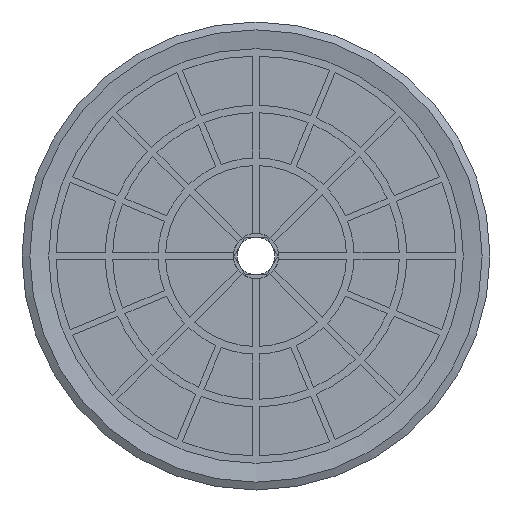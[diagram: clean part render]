
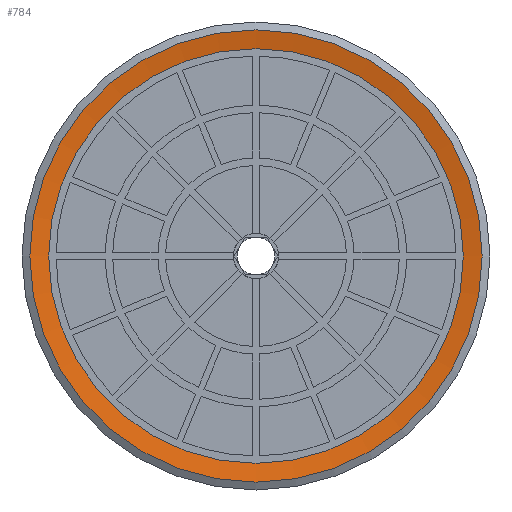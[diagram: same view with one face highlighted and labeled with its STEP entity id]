
A CAD part, front view. The second image highlights one B-rep face of the part: STEP entity #784.
In plain terms, the highlighted conical face has half-angle 80 degrees and reference radius 15 mm.
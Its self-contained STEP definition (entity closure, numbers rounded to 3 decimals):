
#784=ADVANCED_FACE('',(#1532,#1533),#1534,.F.);
#1532=FACE_BOUND('',#2609,.T.);
#1533=FACE_OUTER_BOUND('',#2610,.T.);
#1534=CONICAL_SURFACE('',#2611,15.0,1.396);
#2609=EDGE_LOOP('',(#4850));
#2610=EDGE_LOOP('',(#4851));
#2611=AXIS2_PLACEMENT_3D('',#4852,#4853,#4854);
#4850=ORIENTED_EDGE('',*,*,#6196,.T.);
#4851=ORIENTED_EDGE('',*,*,#6290,.F.);
#4852=CARTESIAN_POINT('',(0.0,0.,0.));
#4853=DIRECTION('',(0.0,0.,-1.0));
#4854=DIRECTION('',(0.0,1.0,0.));
#6196=EDGE_CURVE('',#7484,#7484,#7485,.T.);
#6290=EDGE_CURVE('',#7622,#7622,#7623,.T.);
#7484=VERTEX_POINT('',#9801);
#7485=CIRCLE('',#9802,13.75);
#7622=VERTEX_POINT('',#10005);
#7623=CIRCLE('',#10006,15.0);
#9801=CARTESIAN_POINT('',(0.0,-13.75,0.22));
#9802=AXIS2_PLACEMENT_3D('',#11209,#11210,#11211);
#10005=CARTESIAN_POINT('',(0.0,-15.0,0.));
#10006=AXIS2_PLACEMENT_3D('',#11359,#11360,#11361);
#11209=CARTESIAN_POINT('',(0.0,0.,0.22));
#11210=DIRECTION('',(0.0,0.,1.0));
#11211=DIRECTION('',(0.0,-1.0,0.));
#11359=CARTESIAN_POINT('',(0.0,0.,0.));
#11360=DIRECTION('',(0.0,0.,1.0));
#11361=DIRECTION('',(0.0,-1.0,0.));
